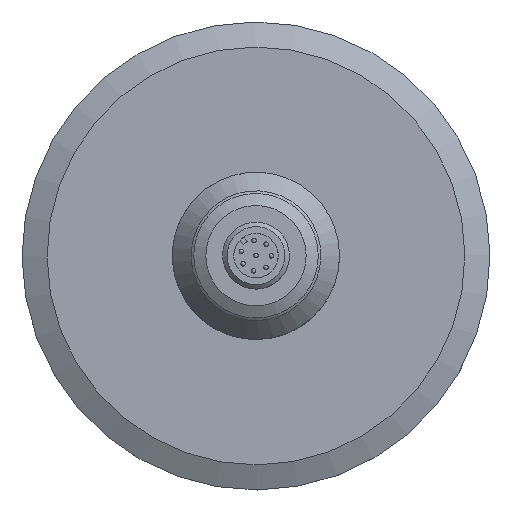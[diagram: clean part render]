
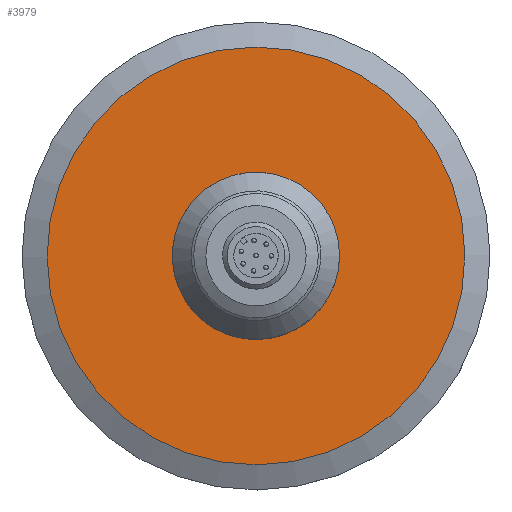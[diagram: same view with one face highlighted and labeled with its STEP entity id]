
A CAD part, top view. The second image highlights one B-rep face of the part: STEP entity #3979.
In plain terms, the highlighted planar face has unit normal (0, 0, 1).
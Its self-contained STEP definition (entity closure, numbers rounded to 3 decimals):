
#685=ORIENTED_EDGE('',*,*,#1431,.F.);
#686=ORIENTED_EDGE('',*,*,#1430,.T.);
#1430=EDGE_CURVE('',#1815,#1815,#2087,.T.);
#1431=EDGE_CURVE('',#1816,#1816,#2088,.T.);
#1815=VERTEX_POINT('',#4989);
#1816=VERTEX_POINT('',#4992);
#2087=CIRCLE('',#4192,37.497);
#2088=CIRCLE('',#4194,15.);
#2184=EDGE_LOOP('',(#685));
#2185=EDGE_LOOP('',(#686));
#2433=FACE_BOUND('',#2184,.T.);
#2434=FACE_BOUND('',#2185,.T.);
#2643=PLANE('',#4193);
#3979=ADVANCED_FACE('',(#2433,#2434),#2643,.T.);
#4192=AXIS2_PLACEMENT_3D('',#4988,#4448,#4449);
#4193=AXIS2_PLACEMENT_3D('',#4990,#4450,#4451);
#4194=AXIS2_PLACEMENT_3D('',#4991,#4452,#4453);
#4448=DIRECTION('',(0.,0.,1.));
#4449=DIRECTION('',(-0.337,-0.941,0.));
#4450=DIRECTION('',(0.,0.,1.));
#4451=DIRECTION('',(-0.337,-0.941,0.));
#4452=DIRECTION('',(0.,0.,1.));
#4453=DIRECTION('',(1.,0.,0.));
#4988=CARTESIAN_POINT('',(0.,0.,-18.378));
#4989=CARTESIAN_POINT('',(-12.651,-35.298,-18.378));
#4990=CARTESIAN_POINT('',(-6.326,-17.649,-18.378));
#4991=CARTESIAN_POINT('',(0.,0.,-18.378));
#4992=CARTESIAN_POINT('',(15.,0.,-18.378));
